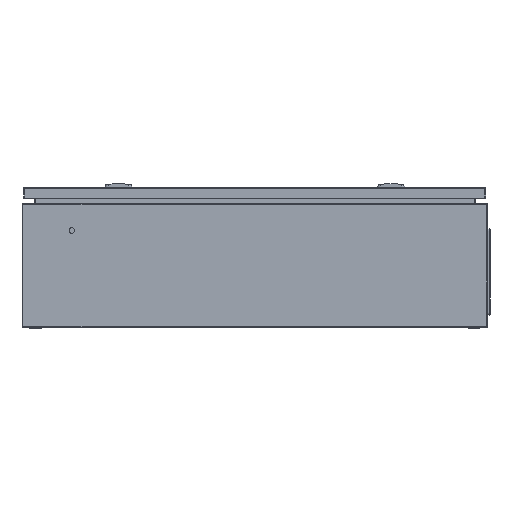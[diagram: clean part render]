
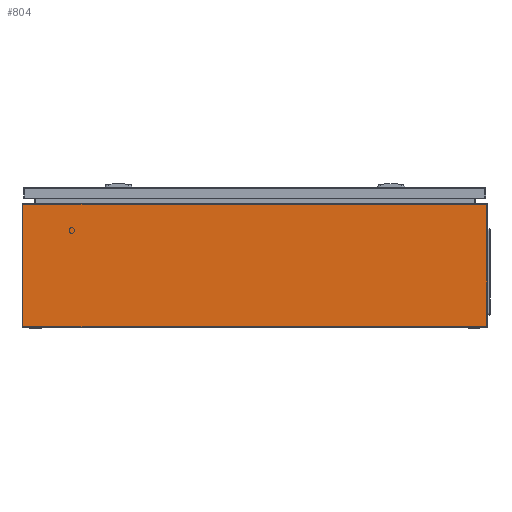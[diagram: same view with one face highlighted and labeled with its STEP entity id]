
A CAD part, left-side view. The second image highlights one B-rep face of the part: STEP entity #804.
In plain terms, the highlighted planar face has unit normal (-1, 0, 0).
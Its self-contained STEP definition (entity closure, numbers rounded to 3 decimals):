
#804 = ADVANCED_FACE( '', ( #1886 ), #1887, .F. );
#1886 = FACE_OUTER_BOUND( '', #3364, .T. );
#1887 = PLANE( '', #3365 );
#3364 = EDGE_LOOP( '', ( #5287, #5288, #5289, #5290 ) );
#3365 = AXIS2_PLACEMENT_3D( '', #5291, #5292, #5293 );
#5287 = ORIENTED_EDGE( '', *, *, #8642, .T. );
#5288 = ORIENTED_EDGE( '', *, *, #8643, .F. );
#5289 = ORIENTED_EDGE( '', *, *, #8367, .F. );
#5290 = ORIENTED_EDGE( '', *, *, #8438, .T. );
#5291 = CARTESIAN_POINT( '', ( -250., 700., -105. ) );
#5292 = DIRECTION( '', ( 1., 0., 0. ) );
#5293 = DIRECTION( '', ( 0., 0., -1. ) );
#8367 = EDGE_CURVE( '', #9916, #9917, #9918, .T. );
#8438 = EDGE_CURVE( '', #9916, #10035, #10037, .T. );
#8642 = EDGE_CURVE( '', #10035, #10391, #10392, .T. );
#8643 = EDGE_CURVE( '', #9917, #10391, #10393, .T. );
#9916 = VERTEX_POINT( '', #12115 );
#9917 = VERTEX_POINT( '', #12116 );
#9918 = LINE( '', #12117, #12118 );
#10035 = VERTEX_POINT( '', #12331 );
#10037 = LINE( '', #12334, #12335 );
#10391 = VERTEX_POINT( '', #12835 );
#10392 = LINE( '', #12836, #12837 );
#10393 = LINE( '', #12838, #12839 );
#12115 = CARTESIAN_POINT( '', ( -250., 700., -105. ) );
#12116 = CARTESIAN_POINT( '', ( -250., 700., 80.2 ) );
#12117 = CARTESIAN_POINT( '', ( -250., 700., -105. ) );
#12118 = VECTOR( '', #14830, 1000. );
#12331 = CARTESIAN_POINT( '', ( -250., 0., -105. ) );
#12334 = CARTESIAN_POINT( '', ( -250., 700., -105. ) );
#12335 = VECTOR( '', #14926, 1000. );
#12835 = CARTESIAN_POINT( '', ( -250., 0., 80.2 ) );
#12836 = CARTESIAN_POINT( '', ( -250., 0., -105. ) );
#12837 = VECTOR( '', #15164, 1000. );
#12838 = CARTESIAN_POINT( '', ( -250., 700., 80.2 ) );
#12839 = VECTOR( '', #15165, 1000. );
#14830 = DIRECTION( '', ( 0., 0., 1. ) );
#14926 = DIRECTION( '', ( 0., -1., 0. ) );
#15164 = DIRECTION( '', ( 0., 0., 1. ) );
#15165 = DIRECTION( '', ( 0., -1., 0. ) );
